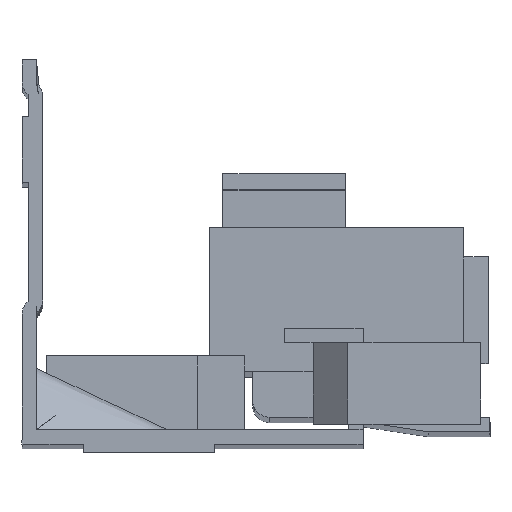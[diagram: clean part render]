
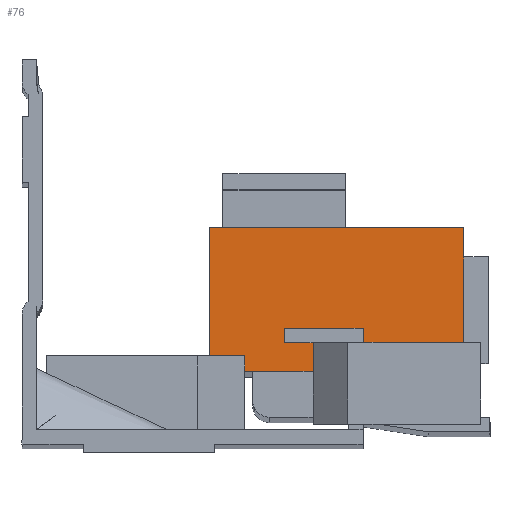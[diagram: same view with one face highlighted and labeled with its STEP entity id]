
A CAD part, front view. The second image highlights one B-rep face of the part: STEP entity #76.
In plain terms, the highlighted planar face has unit normal (0, -1, 0).
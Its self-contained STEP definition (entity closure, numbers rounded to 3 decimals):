
#76 = ADVANCED_FACE ( 'NONE', ( #1918 ), #664, .F. ) ;
#664 = PLANE ( 'NONE',  #4239 ) ;
#665 = CARTESIAN_POINT ( 'NONE',  ( 49.9, -20., -27.058 ) ) ;
#666 = DIRECTION ( 'NONE',  ( 0., 1., 0. ) ) ;
#667 = DIRECTION ( 'NONE',  ( 1., 0., 0. ) ) ;
#831 = CARTESIAN_POINT ( 'NONE',  ( 32., -20., -21.858 ) ) ;
#864 = CARTESIAN_POINT ( 'NONE',  ( 41.6, -20., -23.558 ) ) ;
#866 = CARTESIAN_POINT ( 'NONE',  ( 41.6, -20., -21.858 ) ) ;
#871 = CARTESIAN_POINT ( 'NONE',  ( 53.9, -20., -23.558 ) ) ;
#906 = CARTESIAN_POINT ( 'NONE',  ( 27.15, -20., -27.058 ) ) ;
#907 = CARTESIAN_POINT ( 'NONE',  ( 35.5, -20., -23.608 ) ) ;
#1002 = CARTESIAN_POINT ( 'NONE',  ( 27.15, -20., -25.181 ) ) ;
#1008 = CARTESIAN_POINT ( 'NONE',  ( 22.9, -20., -9.558 ) ) ;
#1056 = CARTESIAN_POINT ( 'NONE',  ( 22.9, -20., -25.181 ) ) ;
#1058 = CARTESIAN_POINT ( 'NONE',  ( 35.5, -20., -27.058 ) ) ;
#1067 = CARTESIAN_POINT ( 'NONE',  ( 32., -20., -23.608 ) ) ;
#1077 = CARTESIAN_POINT ( 'NONE',  ( 53.9, -20., -9.558 ) ) ;
#1328 = CARTESIAN_POINT ( 'NONE',  ( 27.15, -20., -27.058 ) ) ;
#1329 = DIRECTION ( 'NONE',  ( 0., 0., 1. ) ) ;
#1330 = CARTESIAN_POINT ( 'NONE',  ( 49.9, -20., -25.181 ) ) ;
#1331 = DIRECTION ( 'NONE',  ( -1., 0., 0. ) ) ;
#1332 = CARTESIAN_POINT ( 'NONE',  ( 22.9, -20., -27.058 ) ) ;
#1333 = DIRECTION ( 'NONE',  ( 0., 0., 1. ) ) ;
#1334 = CARTESIAN_POINT ( 'NONE',  ( 41.6, -20., -21.858 ) ) ;
#1335 = DIRECTION ( 'NONE',  ( 1., 0., 0. ) ) ;
#1336 = CARTESIAN_POINT ( 'NONE',  ( 32., -20., -21.831 ) ) ;
#1337 = DIRECTION ( 'NONE',  ( 0., 0., 1. ) ) ;
#1338 = CARTESIAN_POINT ( 'NONE',  ( 32., -20., -23.608 ) ) ;
#1339 = DIRECTION ( 'NONE',  ( -1., 0., 0. ) ) ;
#1340 = CARTESIAN_POINT ( 'NONE',  ( 35.5, -20., -27.058 ) ) ;
#1341 = DIRECTION ( 'NONE',  ( 0., 0., -1. ) ) ;
#1342 = CARTESIAN_POINT ( 'NONE',  ( 49.9, -20., -27.058 ) ) ;
#1343 = DIRECTION ( 'NONE',  ( -1., 0., 0. ) ) ;
#1356 = CARTESIAN_POINT ( 'NONE',  ( 41.6, -20., -35.931 ) ) ;
#1357 = DIRECTION ( 'NONE',  ( 0., 0., -1. ) ) ;
#1400 = CARTESIAN_POINT ( 'NONE',  ( 49.9, -20., -23.558 ) ) ;
#1401 = DIRECTION ( 'NONE',  ( 1., 0., 0. ) ) ;
#1414 = CARTESIAN_POINT ( 'NONE',  ( 53.9, -20., -29.558 ) ) ;
#1415 = DIRECTION ( 'NONE',  ( 0., 0., -1. ) ) ;
#1690 = EDGE_LOOP ( 'NONE', ( #4404, #4403, #4402, #4401, #4400, #4399, #4398, #4397, #4396, #4395, #4394, #4393 ) ) ;
#1918 = FACE_OUTER_BOUND ( 'NONE', #1690, .T. ) ;
#2151 = LINE ( 'NONE', #1328, #2152 ) ;
#2152 = VECTOR ( 'NONE', #1329, 1000. ) ;
#2153 = LINE ( 'NONE', #1330, #2154 ) ;
#2154 = VECTOR ( 'NONE', #1331, 1000. ) ;
#2155 = LINE ( 'NONE', #1332, #2156 ) ;
#2156 = VECTOR ( 'NONE', #1333, 1000. ) ;
#2157 = LINE ( 'NONE', #1334, #2158 ) ;
#2158 = VECTOR ( 'NONE', #1335, 1000. ) ;
#2159 = LINE ( 'NONE', #1336, #2160 ) ;
#2160 = VECTOR ( 'NONE', #1337, 1000. ) ;
#2161 = LINE ( 'NONE', #1338, #2162 ) ;
#2162 = VECTOR ( 'NONE', #1339, 1000. ) ;
#2163 = LINE ( 'NONE', #1340, #2164 ) ;
#2164 = VECTOR ( 'NONE', #1341, 1000. ) ;
#2165 = LINE ( 'NONE', #1342, #2166 ) ;
#2166 = VECTOR ( 'NONE', #1343, 1000. ) ;
#2179 = LINE ( 'NONE', #1356, #2180 ) ;
#2180 = VECTOR ( 'NONE', #1357, 1000. ) ;
#2217 = LINE ( 'NONE', #1400, #2218 ) ;
#2218 = VECTOR ( 'NONE', #1401, 1000. ) ;
#2231 = LINE ( 'NONE', #1414, #2232 ) ;
#2232 = VECTOR ( 'NONE', #1415, 1000. ) ;
#2386 = LINE ( 'NONE', #2800, #2387 ) ;
#2387 = VECTOR ( 'NONE', #2801, 1000. ) ;
#2800 = CARTESIAN_POINT ( 'NONE',  ( 53.9, -20., -9.558 ) ) ;
#2801 = DIRECTION ( 'NONE',  ( 1., 0., 0. ) ) ;
#3175 = VERTEX_POINT ( 'NONE', #831 ) ;
#3208 = VERTEX_POINT ( 'NONE', #864 ) ;
#3210 = VERTEX_POINT ( 'NONE', #866 ) ;
#3215 = VERTEX_POINT ( 'NONE', #871 ) ;
#3250 = VERTEX_POINT ( 'NONE', #906 ) ;
#3251 = VERTEX_POINT ( 'NONE', #907 ) ;
#3346 = VERTEX_POINT ( 'NONE', #1002 ) ;
#3352 = VERTEX_POINT ( 'NONE', #1008 ) ;
#3390 = VERTEX_POINT ( 'NONE', #1056 ) ;
#3391 = VERTEX_POINT ( 'NONE', #1058 ) ;
#3397 = VERTEX_POINT ( 'NONE', #1067 ) ;
#3407 = VERTEX_POINT ( 'NONE', #1077 ) ;
#3896 = EDGE_CURVE ( 'NONE', #3250, #3346, #2151, .T. ) ;
#3897 = EDGE_CURVE ( 'NONE', #3346, #3390, #2153, .T. ) ;
#3898 = EDGE_CURVE ( 'NONE', #3390, #3352, #2155, .T. ) ;
#3899 = EDGE_CURVE ( 'NONE', #3175, #3210, #2157, .T. ) ;
#3900 = EDGE_CURVE ( 'NONE', #3397, #3175, #2159, .T. ) ;
#3901 = EDGE_CURVE ( 'NONE', #3251, #3397, #2161, .T. ) ;
#3902 = EDGE_CURVE ( 'NONE', #3251, #3391, #2163, .T. ) ;
#3903 = EDGE_CURVE ( 'NONE', #3391, #3250, #2165, .T. ) ;
#3910 = EDGE_CURVE ( 'NONE', #3210, #3208, #2179, .T. ) ;
#3930 = EDGE_CURVE ( 'NONE', #3208, #3215, #2217, .T. ) ;
#3937 = EDGE_CURVE ( 'NONE', #3407, #3215, #2231, .T. ) ;
#4029 = EDGE_CURVE ( 'NONE', #3352, #3407, #2386, .T. ) ;
#4239 = AXIS2_PLACEMENT_3D ( 'NONE', #665, #666, #667 ) ;
#4393 = ORIENTED_EDGE ( 'NONE', *, *, #3896, .F. ) ;
#4394 = ORIENTED_EDGE ( 'NONE', *, *, #3897, .F. ) ;
#4395 = ORIENTED_EDGE ( 'NONE', *, *, #3898, .F. ) ;
#4396 = ORIENTED_EDGE ( 'NONE', *, *, #4029, .F. ) ;
#4397 = ORIENTED_EDGE ( 'NONE', *, *, #3937, .F. ) ;
#4398 = ORIENTED_EDGE ( 'NONE', *, *, #3930, .T. ) ;
#4399 = ORIENTED_EDGE ( 'NONE', *, *, #3910, .T. ) ;
#4400 = ORIENTED_EDGE ( 'NONE', *, *, #3899, .T. ) ;
#4401 = ORIENTED_EDGE ( 'NONE', *, *, #3900, .T. ) ;
#4402 = ORIENTED_EDGE ( 'NONE', *, *, #3901, .T. ) ;
#4403 = ORIENTED_EDGE ( 'NONE', *, *, #3902, .F. ) ;
#4404 = ORIENTED_EDGE ( 'NONE', *, *, #3903, .F. ) ;
